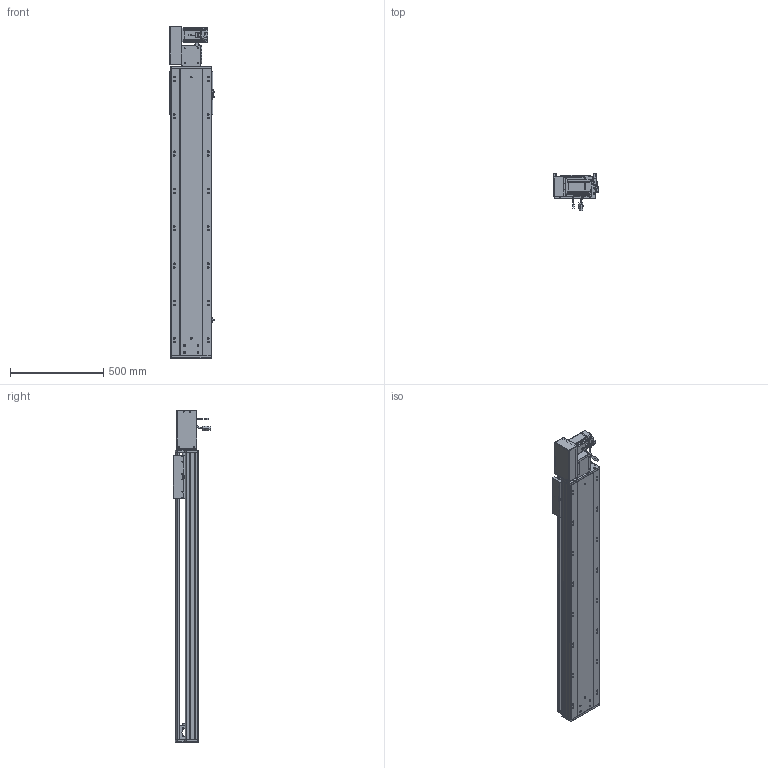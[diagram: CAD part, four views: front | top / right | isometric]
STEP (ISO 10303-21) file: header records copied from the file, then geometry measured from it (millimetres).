
FILE_DESCRIPTION (( 'STEP AP203' ), '1' );
FILE_NAME ('RY220-T-300-LK.SLDASM_1200.step', '2022-07-25T08:14:09', ( '' ), ( '' ), 'SwSTEP 2.0', 'SolidWorks 2016', '' );
FILE_SCHEMA (( 'CONFIG_CONTROL_DESIGN' ));
Length unit declared in the file: millimetre
Products named in the file (14): 滅袉蝶18-15; RY220-T菁釱-300_1200; 110A-T-肮祭謫釱傷裔; RY220-T-湍謫欶(鍼踢); RY220圉猾敕々湍臏賑輸; RY220-同步轮副支撑座6304×2; RY220-俋离672覜茼んえ; RY220-T-300-LK.SLDASM_1200; 覜茼ん672; RY220-T-300-奻裔啣_1200; RY220-T-蛌殏萇儂假蚾啣(750W); RY220翋肮祭謫裔啣; RY220翋肮祭謫釱; 怢湛750W_ECMA-CX0807ES
Assembly tree (18 placements, depth 2):
  RY220-T-300-LK.SLDASM_1200
    RY220-T菁釱-300_1200
    RY220翋肮祭謫釱
    覜茼ん672  x3
    RY220圉猾敕々湍臏賑輸
    RY220-T-300-奻裔啣_1200
    RY220-俋离672覜茼んえ
    滅袉蝶18-15  x3
    RY220翋肮祭謫裔啣  x2
    110A-T-肮祭謫釱傷裔
    怢湛750W_ECMA-CX0807ES
    RY220-T-湍謫欶(鍼踢)
    RY220-T-蛌殏萇儂假蚾啣(750W)
    RY220-同步轮副支撑座6304×2
Bounding box: 239.7 x 198.77 x 1779 mm (x, y, z)
Volume: 13556584.8 mm3; surface area: 4001762.8 mm2
Topology: 19 solids, 19 shells, 2662 faces, 7343 edges, 4652 vertices
Faces by surface type: cylinder 1250, plane 1069, cone 261, bspline 56, sphere 16, torus 10
Entity records: 88499 total; most frequent: CARTESIAN_POINT 25201, ORIENTED_EDGE 13146, DIRECTION 12448, EDGE_CURVE 6573, AXIS2_PLACEMENT_3D 4408, VERTEX_POINT 4276, LINE 3632, VECTOR 3632
